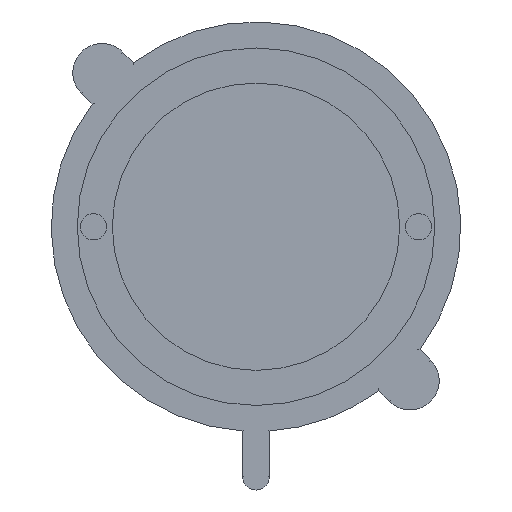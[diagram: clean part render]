
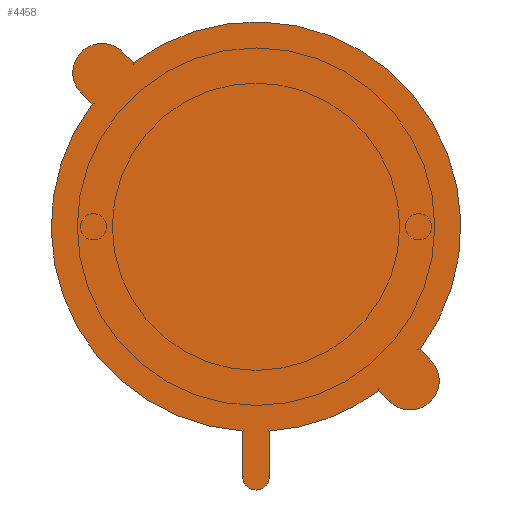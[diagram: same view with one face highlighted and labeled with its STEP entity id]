
A CAD part, top view. The second image highlights one B-rep face of the part: STEP entity #4458.
In plain terms, the highlighted planar face has unit normal (0, 0, 1).
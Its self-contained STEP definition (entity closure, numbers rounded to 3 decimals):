
#1153=LINE('',#21424,#2114);
#1155=LINE('',#21430,#2116);
#1168=LINE('',#21484,#2129);
#1171=LINE('',#21492,#2132);
#1173=LINE('',#21496,#2134);
#1175=LINE('',#21502,#2136);
#2114=VECTOR('',#17551,1.);
#2116=VECTOR('',#17559,1.);
#2129=VECTOR('',#17622,1.);
#2132=VECTOR('',#17631,1.);
#2134=VECTOR('',#17635,1.);
#2136=VECTOR('',#17643,1.);
#4458=ADVANCED_FACE('',(#5773),#5357,.T.);
#5357=PLANE('',#16116);
#5773=FACE_OUTER_BOUND('',#6540,.T.);
#6540=EDGE_LOOP('',(#7816,#7817,#7818,#7819,#7820,#7821,#7822,#7823,#7824,
#7825,#7826,#7827));
#7816=ORIENTED_EDGE('',*,*,#13401,.F.);
#7817=ORIENTED_EDGE('',*,*,#13403,.F.);
#7818=ORIENTED_EDGE('',*,*,#13404,.F.);
#7819=ORIENTED_EDGE('',*,*,#13376,.F.);
#7820=ORIENTED_EDGE('',*,*,#13431,.F.);
#7821=ORIENTED_EDGE('',*,*,#13429,.F.);
#7822=ORIENTED_EDGE('',*,*,#13427,.F.);
#7823=ORIENTED_EDGE('',*,*,#13374,.F.);
#7824=ORIENTED_EDGE('',*,*,#13433,.F.);
#7825=ORIENTED_EDGE('',*,*,#13435,.F.);
#7826=ORIENTED_EDGE('',*,*,#13436,.F.);
#7827=ORIENTED_EDGE('',*,*,#13380,.F.);
#11899=VERTEX_POINT('',#21345);
#11900=VERTEX_POINT('',#21347);
#11901=VERTEX_POINT('',#21354);
#11902=VERTEX_POINT('',#21355);
#11903=VERTEX_POINT('',#21369);
#11904=VERTEX_POINT('',#21371);
#11919=VERTEX_POINT('',#21423);
#11920=VERTEX_POINT('',#21427);
#11937=VERTEX_POINT('',#21485);
#11938=VERTEX_POINT('',#21489);
#11939=VERTEX_POINT('',#21495);
#11940=VERTEX_POINT('',#21499);
#13374=EDGE_CURVE('',#11899,#11900,#15601,.T.);
#13376=EDGE_CURVE('',#11901,#11902,#15602,.T.);
#13380=EDGE_CURVE('',#11903,#11904,#15603,.T.);
#13401=EDGE_CURVE('',#11919,#11903,#1153,.T.);
#13403=EDGE_CURVE('',#11920,#11919,#15616,.T.);
#13404=EDGE_CURVE('',#11902,#11920,#1155,.T.);
#13427=EDGE_CURVE('',#11900,#11937,#1168,.T.);
#13429=EDGE_CURVE('',#11937,#11938,#15627,.T.);
#13431=EDGE_CURVE('',#11938,#11901,#1171,.T.);
#13433=EDGE_CURVE('',#11939,#11899,#1173,.T.);
#13435=EDGE_CURVE('',#11940,#11939,#15628,.T.);
#13436=EDGE_CURVE('',#11904,#11940,#1175,.T.);
#15601=CIRCLE('',#16047,31.5);
#15602=CIRCLE('',#16049,31.5);
#15603=CIRCLE('',#16051,31.5);
#15616=CIRCLE('',#16079,2.05);
#15627=CIRCLE('',#16107,4.5);
#15628=CIRCLE('',#16111,4.5);
#16047=AXIS2_PLACEMENT_3D('',#21346,#17482,#17483);
#16049=AXIS2_PLACEMENT_3D('',#21353,#17486,#17487);
#16051=AXIS2_PLACEMENT_3D('',#21370,#17490,#17491);
#16079=AXIS2_PLACEMENT_3D('',#21428,#17555,#17556);
#16107=AXIS2_PLACEMENT_3D('',#21488,#17626,#17627);
#16111=AXIS2_PLACEMENT_3D('',#21500,#17639,#17640);
#16116=AXIS2_PLACEMENT_3D('',#21506,#17650,#17651);
#17482=DIRECTION('',(0.,0.,-1.));
#17483=DIRECTION('',(1.,0.,0.));
#17486=DIRECTION('',(0.,0.,-1.));
#17487=DIRECTION('',(1.,0.,0.));
#17490=DIRECTION('',(0.,0.,-1.));
#17491=DIRECTION('',(1.,0.,0.));
#17551=DIRECTION('',(0.,1.,0.));
#17555=DIRECTION('',(0.,0.,-1.));
#17556=DIRECTION('',(1.,0.,0.));
#17559=DIRECTION('',(0.,-1.,0.));
#17622=DIRECTION('',(0.707,-0.707,0.));
#17626=DIRECTION('',(0.,0.,-1.));
#17627=DIRECTION('',(1.,0.,0.));
#17631=DIRECTION('',(-0.707,0.707,0.));
#17635=DIRECTION('',(0.707,-0.707,0.));
#17639=DIRECTION('',(0.,0.,-1.));
#17640=DIRECTION('',(1.,0.,0.));
#17643=DIRECTION('',(-0.707,0.707,0.));
#17650=DIRECTION('',(0.,0.,1.));
#17651=DIRECTION('',(1.,0.,0.));
#21345=CARTESIAN_POINT('',(-20.196,24.295,67.271));
#21346=CARTESIAN_POINT('',(-1.333,-0.932,67.271));
#21347=CARTESIAN_POINT('',(23.895,-19.796,67.271));
#21353=CARTESIAN_POINT('',(-1.333,-0.932,67.271));
#21354=CARTESIAN_POINT('',(17.531,-26.16,67.271));
#21355=CARTESIAN_POINT('',(0.717,-32.365,67.271));
#21369=CARTESIAN_POINT('',(-3.383,-32.365,67.271));
#21370=CARTESIAN_POINT('',(-1.333,-0.932,67.271));
#21371=CARTESIAN_POINT('',(-26.56,17.931,67.271));
#21423=CARTESIAN_POINT('',(-3.383,-39.382,67.271));
#21424=CARTESIAN_POINT('',(-3.383,-32.394,67.271));
#21427=CARTESIAN_POINT('',(0.717,-39.382,67.271));
#21428=CARTESIAN_POINT('',(-1.333,-39.382,67.271));
#21430=CARTESIAN_POINT('',(0.717,-39.382,67.271));
#21484=CARTESIAN_POINT('',(1.849,2.25,67.271));
#21485=CARTESIAN_POINT('',(25.537,-21.438,67.271));
#21488=CARTESIAN_POINT('',(22.355,-24.62,67.271));
#21489=CARTESIAN_POINT('',(19.173,-27.802,67.271));
#21492=CARTESIAN_POINT('',(-4.515,-4.114,67.271));
#21495=CARTESIAN_POINT('',(-21.839,25.938,67.271));
#21496=CARTESIAN_POINT('',(1.849,2.25,67.271));
#21499=CARTESIAN_POINT('',(-28.203,19.574,67.271));
#21500=CARTESIAN_POINT('',(-25.021,22.756,67.271));
#21502=CARTESIAN_POINT('',(-4.515,-4.114,67.271));
#21506=CARTESIAN_POINT('',(-1.333,-0.932,67.271));
